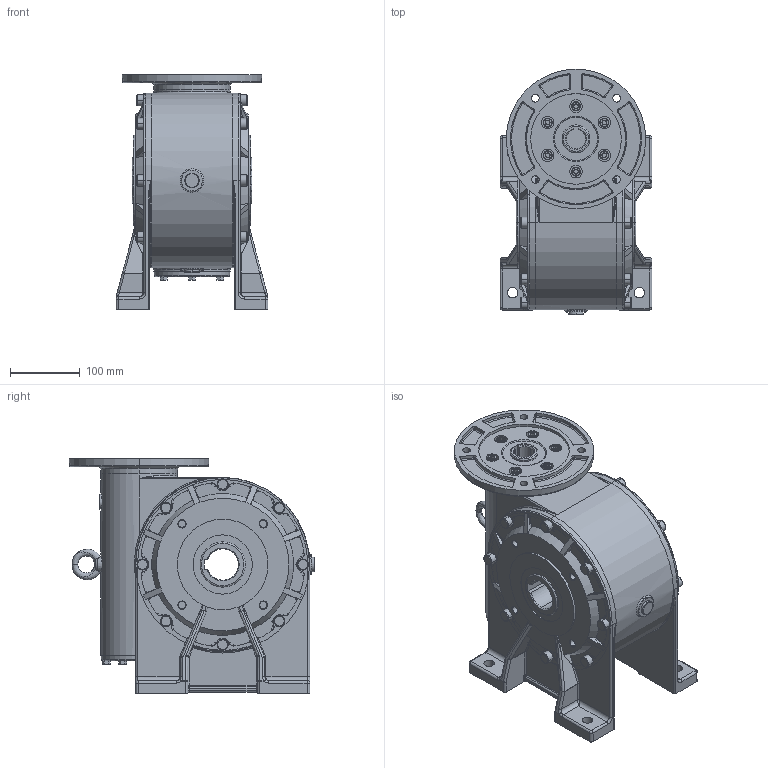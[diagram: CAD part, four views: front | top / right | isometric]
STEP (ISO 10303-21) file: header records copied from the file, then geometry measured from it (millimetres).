
FILE_DESCRIPTION (( 'STEP AP214' ), '1' );
FILE_NAME ('Sestava MRT120-V.STEP', '2007-06-25T11:27:46', ( '' ), ( '' ), 'SwSTEP 2.0', 'SolidWorks 2004146', '' );
FILE_SCHEMA (( 'AUTOMOTIVE_DESIGN' ));
Length unit declared in the file: millimetre
Products named in the file (8): Sestava MRT120-V; Víèko_Výchozí; Pøíruba FT_Výchozí; Skøíò120_Výchozí; Patka 120_Výchozí; A18151M_ANSI B18.15.1M Závìsný šroub M10; Pøíruba MRT120 kulatá _130-165-188; N021143_Šroub s vnitøním šestihranem DIN 912 - M8 x 25
Assembly tree (14 placements, depth 2):
  Sestava MRT120-V
    N021143_Šroub s vnitøním šestihranem DIN 912 - M8 x 25  x6
    Skøíò120_Výchozí
    Pøíruba FT_Výchozí  x2
    Patka 120_Výchozí  x2
    A18151M_ANSI B18.15.1M Závìsný šroub M10
    Pøíruba MRT120 kulatá _130-165-188
    Víèko_Výchozí
Bounding box: 218 x 352 x 337 mm (x, y, z)
Volume: 11292512.2 mm3; surface area: 999093.4 mm2
Topology: 14 solids, 14 shells, 1757 faces, 4055 edges, 2342 vertices
Faces by surface type: torus 485, cylinder 373, plane 342, bspline 274, cone 193, sphere 90
Entity records: 76748 total; most frequent: CARTESIAN_POINT 53596, DIRECTION 5037, ORIENTED_EDGE 4682, EDGE_CURVE 2341, AXIS2_PLACEMENT_3D 2224, VERTEX_POINT 1384, CIRCLE 1344, EDGE_LOOP 1093
